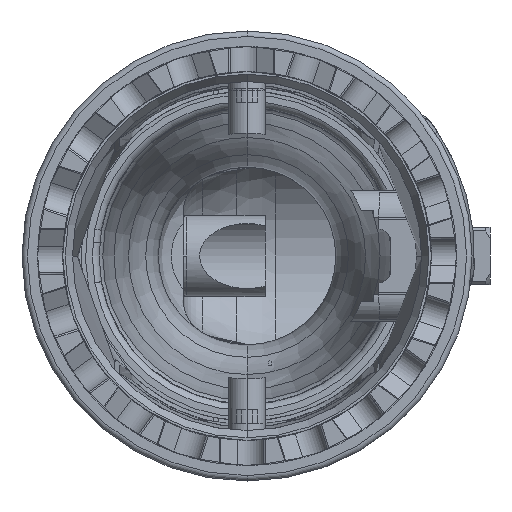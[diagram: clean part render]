
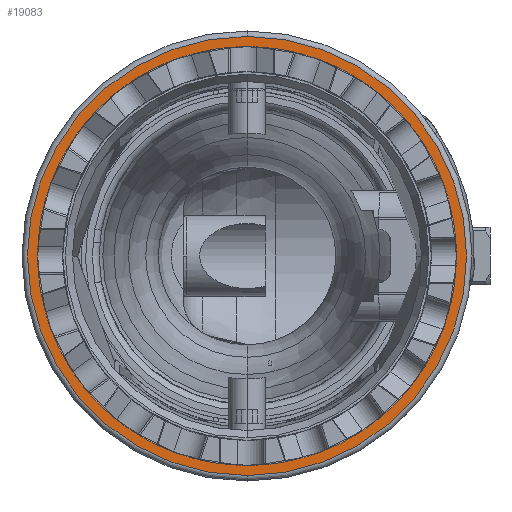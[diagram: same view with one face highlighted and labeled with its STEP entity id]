
A CAD part, left-side view. The second image highlights one B-rep face of the part: STEP entity #19083.
In plain terms, the highlighted planar face has unit normal (-1, 0, 0).
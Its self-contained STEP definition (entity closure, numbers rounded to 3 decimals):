
#1277 = DIRECTION ( 'NONE',  ( 0., 0., 1. ) ) ;
#1278 = DIRECTION ( 'NONE',  ( -1., 0., 0. ) ) ;
#1279 = AXIS2_PLACEMENT_3D ( 'NONE', #1290, #1278, #1277 ) ;
#1288 = CIRCLE ( 'NONE', #1279, 24.129 ) ;
#1290 = CARTESIAN_POINT ( 'NONE',  ( -427.1, 0., 0. ) ) ;
#8288 = CARTESIAN_POINT ( 'NONE',  ( -427.1, 0., -23. ) ) ;
#8289 = CARTESIAN_POINT ( 'NONE',  ( -427.1, 0., 23. ) ) ;
#8290 = DIRECTION ( 'NONE',  ( 0., 0., 1. ) ) ;
#8291 = DIRECTION ( 'NONE',  ( -1., 0., 0. ) ) ;
#8292 = CARTESIAN_POINT ( 'NONE',  ( -427.1, 0., 0. ) ) ;
#8293 = AXIS2_PLACEMENT_3D ( 'NONE', #8292, #8291, #8290 ) ;
#8294 = CIRCLE ( 'NONE', #8293, 23. ) ;
#8680 = CARTESIAN_POINT ( 'NONE',  ( -427.1, 0., -24.129 ) ) ;
#8681 = CARTESIAN_POINT ( 'NONE',  ( -427.1, 0., 24.129 ) ) ;
#8682 = DIRECTION ( 'NONE',  ( 0., 0., 1. ) ) ;
#8683 = DIRECTION ( 'NONE',  ( -1., 0., 0. ) ) ;
#8684 = CARTESIAN_POINT ( 'NONE',  ( -427.1, 0., 0. ) ) ;
#8685 = AXIS2_PLACEMENT_3D ( 'NONE', #8684, #8683, #8682 ) ;
#8690 = CIRCLE ( 'NONE', #8685, 24.129 ) ;
#19083 = ADVANCED_FACE ( 'NONE', ( #46374, #46377 ), #46355, .T. ) ;
#19084 = EDGE_LOOP ( 'NONE', ( #22898, #22902 ) ) ;
#19127 = EDGE_CURVE ( 'NONE', #42213, #42212, #46412, .T. ) ;
#22898 = ORIENTED_EDGE ( 'NONE', *, *, #22900, .T. ) ;
#22900 = EDGE_CURVE ( 'NONE', #42227, #42226, #1288, .T. ) ;
#22902 = ORIENTED_EDGE ( 'NONE', *, *, #42225, .T. ) ;
#22905 = EDGE_LOOP ( 'NONE', ( #22907, #22909 ) ) ;
#22907 = ORIENTED_EDGE ( 'NONE', *, *, #42211, .F. ) ;
#22909 = ORIENTED_EDGE ( 'NONE', *, *, #19127, .F. ) ;
#42211 = EDGE_CURVE ( 'NONE', #42212, #42213, #8294, .T. ) ;
#42212 = VERTEX_POINT ( 'NONE', #8289 ) ;
#42213 = VERTEX_POINT ( 'NONE', #8288 ) ;
#42225 = EDGE_CURVE ( 'NONE', #42226, #42227, #8690, .T. ) ;
#42226 = VERTEX_POINT ( 'NONE', #8681 ) ;
#42227 = VERTEX_POINT ( 'NONE', #8680 ) ;
#46148 = DIRECTION ( 'NONE',  ( 0., 0., 1. ) ) ;
#46350 = DIRECTION ( 'NONE',  ( -1., 0., 0. ) ) ;
#46351 = CARTESIAN_POINT ( 'NONE',  ( -427.1, 0., 0. ) ) ;
#46352 = AXIS2_PLACEMENT_3D ( 'NONE', #46351, #46350, #46148 ) ;
#46355 = PLANE ( 'NONE',  #46352 ) ;
#46374 = FACE_OUTER_BOUND ( 'NONE', #19084, .T. ) ;
#46377 = FACE_BOUND ( 'NONE', #22905, .T. ) ;
#46409 = DIRECTION ( 'NONE',  ( 0., 0., 1. ) ) ;
#46410 = DIRECTION ( 'NONE',  ( -1., 0., 0. ) ) ;
#46411 = AXIS2_PLACEMENT_3D ( 'NONE', #46418, #46410, #46409 ) ;
#46412 = CIRCLE ( 'NONE', #46411, 23. ) ;
#46418 = CARTESIAN_POINT ( 'NONE',  ( -427.1, 0., 0. ) ) ;
